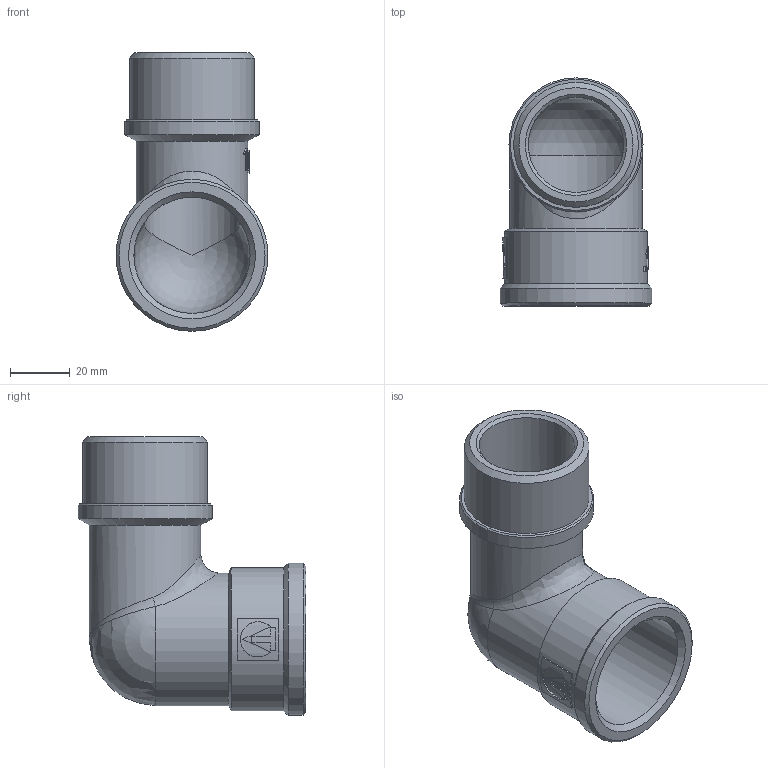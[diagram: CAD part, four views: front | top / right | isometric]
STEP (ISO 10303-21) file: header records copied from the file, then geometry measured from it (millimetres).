
FILE_DESCRIPTION(('STEP AP203'), '1');
FILE_NAME('ÂÐ.752218.005 - VTr.092.N.0007 - Ôèò. ðåçüá. óãîë', '2024-06-20T13:37:07', ('Boss'), (''), 'C3D Converter', 'C3D Toolkit', '');
FILE_SCHEMA(('CONFIG_CONTROL_DESIGN'));
Length unit declared in the file: millimetre
Products named in the file (1): ВР.752218.005
Bounding box: 51 x 76.5 x 93.5 mm (x, y, z)
Volume: 56063.9 mm3; surface area: 31069.7 mm2
Topology: 1 solids, 1 shells, 246 faces, 682 edges, 448 vertices
Faces by surface type: extrusion 126, plane 83, cylinder 24, cone 8, bspline 3, sphere 2
Full cylindrical faces by diameter (mm): 32 x1, 37.5 x1, 39 x1, 41.91 x1, 44.5 x1, 45 x1, 48 x1, 51 x1
Entity records: 12232 total; most frequent: CARTESIAN_POINT 6754, ORIENTED_EDGE 1320, DIRECTION 719, EDGE_CURVE 660, VERTEX_POINT 448, B_SPLINE_CURVE_WITH_KNOTS 392, VECTOR 377, EDGE_LOOP 280
